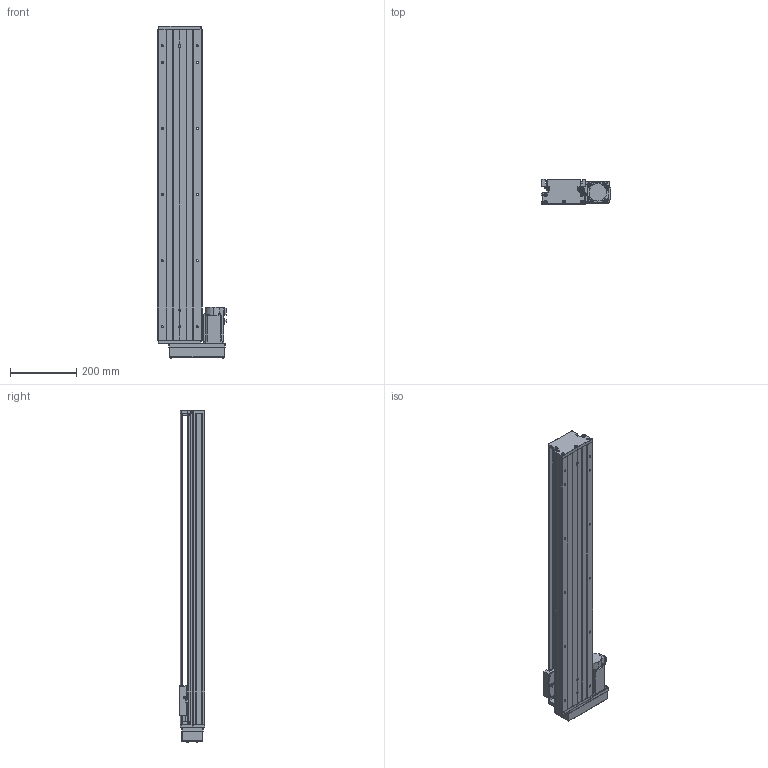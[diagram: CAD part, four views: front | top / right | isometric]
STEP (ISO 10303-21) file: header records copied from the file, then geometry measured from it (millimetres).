
FILE_DESCRIPTION (( 'STEP AP203' ), '1' );
FILE_NAME ('KTH130-800-BR-M40-C4.step', '2023-06-30T04:12:52', ( '微软用户' ), ( '微软中国' ), 'SwSTEP 2.0', 'SolidWorks 2020', '' );
FILE_SCHEMA (( 'CONFIG_CONTROL_DESIGN' ));
Length unit declared in the file: millimetre
Products named in the file (19): HG-KN43J-S100; GBT 70.2-M3¡Á5_M3¡Á6; GTH14-001_800; GBT 70.2-M4¡Á35_M4¡Á35; CTHA60-017; KTH130-002_KTH130-002; GTH14-015-2_CTHA86-015-2; EE_SX911P_R; GBT 70.1-M3℅5; KTH130-004; GTH14-033; CTHA60-016; GBT77-2000 M3×3; KTH130-005; KTH130-800-BR-M40-C4; す晦芛蹟隊 M3℅5; GB1155-6X6; GBT 70.3-M3℅8; GBT70.1 M5℅16
Assembly tree (53 placements, depth 2):
  KTH130-800-BR-M40-C4
    GTH14-001_800
    KTH130-002_KTH130-002
    KTH130-004
    KTH130-005
    GB1155-6X6  x2
    GBT70.1 M5℅16  x10
    GBT 70.2-M3¡Á5_M3¡Á6  x4
    CTHA60-017  x3
    EE_SX911P_R  x3
    CTHA60-016  x2
    GBT 70.1-M3℅5  x6
    GBT77-2000 M3×3  x6
    す晦芛蹟隊 M3℅5  x2
    GBT 70.3-M3℅8  x4
    HG-KN43J-S100
    GBT 70.2-M4¡Á35_M4¡Á35  x4
    GTH14-015-2_CTHA86-015-2
    GTH14-033
Bounding box: 209.3 x 78 x 1004.2 mm (x, y, z)
Volume: 5664073 mm3; surface area: 911810.6 mm2
Topology: 56 solids, 56 shells, 2233 faces, 5390 edges, 3358 vertices
Faces by surface type: plane 1199, cylinder 620, cone 290, torus 100, sphere 24
Entity records: 40866 total; most frequent: CARTESIAN_POINT 8684, DIRECTION 6099, ORIENTED_EDGE 5980, EDGE_CURVE 2990, AXIS2_PLACEMENT_3D 2104, VERTEX_POINT 1911, VECTOR 1891, LINE 1891
